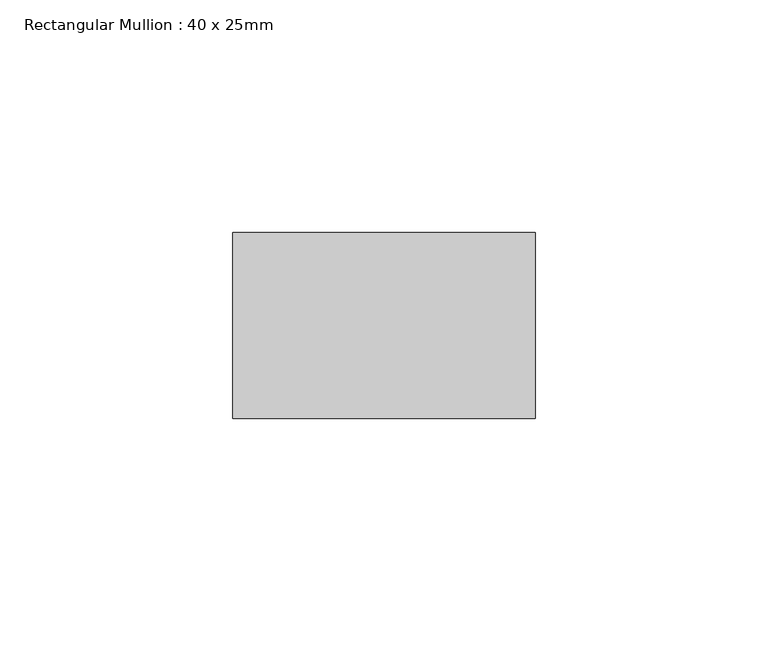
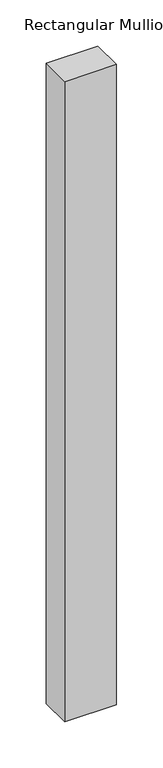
"""IFC4 building model written with IfcOpenShell, lengths in millimetres: member geometry, Rectangular Mullion : 40 x 25mm."""

from ifc_helpers import new_model, si_unit, frame, origin, place, context, project, spatial, polyline, outline, extrude, source, transform, mapped, element, save


def rectangular_mullion_40_x_25mm_23bbbc5e(model_context):
    return source(origin(), model_context, "Body", "SweptSolid", [
        extrude(outline(polyline([(0.0, -20.0), (0.0, -60.0), (-65.0, -60.0), (-65.0, -20.0), (0.0, -20.0)])), frame((0.0, 0.0, -847.9333333), z_axis=(0.0, 0.0, 1.0), x_axis=(1.0, 0.0, 0.0)), (0.0, 0.0, 1.0), 847.9333333),
    ])


if __name__ == "__main__":
    model = new_model("IFC4")
    model_context = context("Model", 3, world=origin())
    ifc_project = project(units=[si_unit("LENGTHUNIT", "METRE", prefix="MILLI")], contexts=[model_context])
    site = spatial("IfcSite", under=ifc_project)
    building = spatial("IfcBuilding", under=site)
    placement = place(None, origin())
    rectangular_mullion_40_x_25mm_shape = rectangular_mullion_40_x_25mm_23bbbc5e(model_context)
    element("IfcMember", 1, ObjectType="Rectangular Mullion : 40 x 25mm", at=placement, inside=building, context=model_context, shape_type="MappedRepresentation", body=[
        mapped(rectangular_mullion_40_x_25mm_shape, transform((0.0, 0.0, 0.0), x_axis=(1.0, 0.0, 0.0), y_axis=(0.0, 1.0, 0.0), z_axis=(0.0, 0.0, 1.0))),
    ])
    save(model, "model.ifc")
